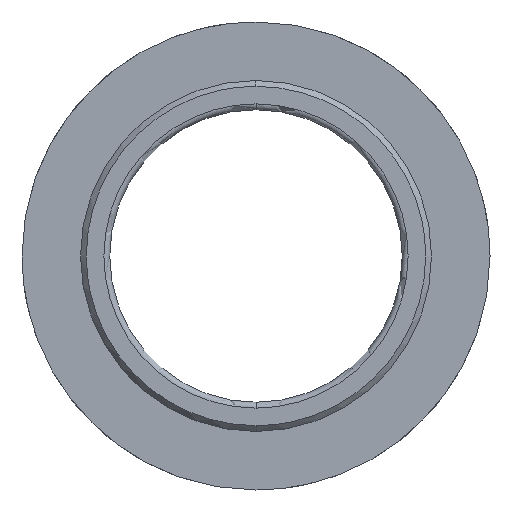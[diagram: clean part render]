
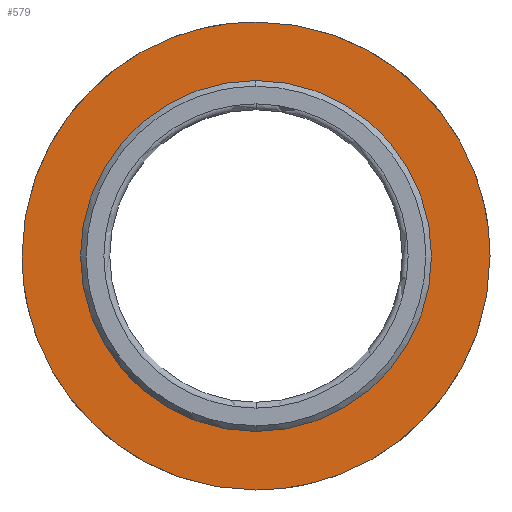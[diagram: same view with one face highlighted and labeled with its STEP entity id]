
A CAD part, left-side view. The second image highlights one B-rep face of the part: STEP entity #579.
In plain terms, the highlighted planar face has unit normal (-1, 0, 0).
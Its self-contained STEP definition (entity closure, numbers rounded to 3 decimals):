
#363=CARTESIAN_POINT('Vertex',(-8.,0.,30.)) ;
#366=CARTESIAN_POINT('Axis2P3D Location',(-8.,0.,0.)) ;
#370=CARTESIAN_POINT('Vertex',(-8.,30.,0.)) ;
#373=CARTESIAN_POINT('Axis2P3D Location',(-8.,0.,0.)) ;
#377=CARTESIAN_POINT('Vertex',(-8.,0.,-30.)) ;
#399=CARTESIAN_POINT('Axis2P3D Location',(-8.,0.,0.)) ;
#403=CARTESIAN_POINT('Vertex',(-8.,-30.,0.)) ;
#406=CARTESIAN_POINT('Axis2P3D Location',(-8.,0.,0.)) ;
#486=CARTESIAN_POINT('Axis2P3D Location',(-8.,40.,0.)) ;
#492=CARTESIAN_POINT('Control Point',(-8.,0.,-40.)) ;
#493=CARTESIAN_POINT('Control Point',(-8.,3.718,-40.)) ;
#494=CARTESIAN_POINT('Control Point',(-8.,7.436,-39.568)) ;
#495=CARTESIAN_POINT('Control Point',(-8.,11.087,-38.704)) ;
#496=CARTESIAN_POINT('Control Point',(-8.,18.122,-36.143)) ;
#497=CARTESIAN_POINT('Control Point',(-8.,24.382,-32.038)) ;
#498=CARTESIAN_POINT('Control Point',(-8.,27.259,-29.629)) ;
#499=CARTESIAN_POINT('Control Point',(-8.,32.399,-24.187)) ;
#500=CARTESIAN_POINT('Control Point',(-8.,36.155,-17.712)) ;
#501=CARTESIAN_POINT('Control Point',(-8.,37.647,-14.269)) ;
#502=CARTESIAN_POINT('Control Point',(-8.,39.135,-9.323)) ;
#503=CARTESIAN_POINT('Control Point',(-8.,39.813,-4.233)) ;
#504=CARTESIAN_POINT('Control Point',(-8.,39.938,-2.824)) ;
#505=CARTESIAN_POINT('Control Point',(-8.,40.,-1.412)) ;
#506=CARTESIAN_POINT('Control Point',(-8.,40.,0.)) ;
#507=CARTESIAN_POINT('Vertex',(-8.,0.,-40.)) ;
#509=CARTESIAN_POINT('Vertex',(-8.,40.,0.)) ;
#513=CARTESIAN_POINT('Control Point',(-8.,-40.,0.)) ;
#514=CARTESIAN_POINT('Control Point',(-8.,-40.,-3.718)) ;
#515=CARTESIAN_POINT('Control Point',(-8.,-39.568,-7.436)) ;
#516=CARTESIAN_POINT('Control Point',(-8.,-38.704,-11.087)) ;
#517=CARTESIAN_POINT('Control Point',(-8.,-36.143,-18.122)) ;
#518=CARTESIAN_POINT('Control Point',(-8.,-32.038,-24.382)) ;
#519=CARTESIAN_POINT('Control Point',(-8.,-29.629,-27.259)) ;
#520=CARTESIAN_POINT('Control Point',(-8.,-24.187,-32.399)) ;
#521=CARTESIAN_POINT('Control Point',(-8.,-17.712,-36.155)) ;
#522=CARTESIAN_POINT('Control Point',(-8.,-14.269,-37.647)) ;
#523=CARTESIAN_POINT('Control Point',(-8.,-9.323,-39.135)) ;
#524=CARTESIAN_POINT('Control Point',(-8.,-4.233,-39.813)) ;
#525=CARTESIAN_POINT('Control Point',(-8.,-2.824,-39.938)) ;
#526=CARTESIAN_POINT('Control Point',(-8.,-1.412,-40.)) ;
#527=CARTESIAN_POINT('Control Point',(-8.,0.,-40.)) ;
#528=CARTESIAN_POINT('Vertex',(-8.,-40.,0.)) ;
#532=CARTESIAN_POINT('Control Point',(-8.,0.,40.)) ;
#533=CARTESIAN_POINT('Control Point',(-8.,-3.718,40.)) ;
#534=CARTESIAN_POINT('Control Point',(-8.,-7.436,39.568)) ;
#535=CARTESIAN_POINT('Control Point',(-8.,-11.087,38.704)) ;
#536=CARTESIAN_POINT('Control Point',(-8.,-18.122,36.143)) ;
#537=CARTESIAN_POINT('Control Point',(-8.,-24.382,32.038)) ;
#538=CARTESIAN_POINT('Control Point',(-8.,-27.259,29.629)) ;
#539=CARTESIAN_POINT('Control Point',(-8.,-32.399,24.187)) ;
#540=CARTESIAN_POINT('Control Point',(-8.,-36.155,17.712)) ;
#541=CARTESIAN_POINT('Control Point',(-8.,-37.647,14.269)) ;
#542=CARTESIAN_POINT('Control Point',(-8.,-39.135,9.323)) ;
#543=CARTESIAN_POINT('Control Point',(-8.,-39.813,4.233)) ;
#544=CARTESIAN_POINT('Control Point',(-8.,-39.938,2.824)) ;
#545=CARTESIAN_POINT('Control Point',(-8.,-40.,1.412)) ;
#546=CARTESIAN_POINT('Control Point',(-8.,-40.,0.)) ;
#547=CARTESIAN_POINT('Vertex',(-8.,0.,40.)) ;
#551=CARTESIAN_POINT('Control Point',(-8.,40.,0.)) ;
#552=CARTESIAN_POINT('Control Point',(-8.,40.,3.718)) ;
#553=CARTESIAN_POINT('Control Point',(-8.,39.568,7.436)) ;
#554=CARTESIAN_POINT('Control Point',(-8.,38.704,11.087)) ;
#555=CARTESIAN_POINT('Control Point',(-8.,36.143,18.122)) ;
#556=CARTESIAN_POINT('Control Point',(-8.,32.038,24.382)) ;
#557=CARTESIAN_POINT('Control Point',(-8.,29.629,27.259)) ;
#558=CARTESIAN_POINT('Control Point',(-8.,24.187,32.399)) ;
#559=CARTESIAN_POINT('Control Point',(-8.,17.712,36.155)) ;
#560=CARTESIAN_POINT('Control Point',(-8.,14.269,37.647)) ;
#561=CARTESIAN_POINT('Control Point',(-8.,9.323,39.135)) ;
#562=CARTESIAN_POINT('Control Point',(-8.,4.233,39.813)) ;
#563=CARTESIAN_POINT('Control Point',(-8.,2.824,39.938)) ;
#564=CARTESIAN_POINT('Control Point',(-8.,1.412,40.)) ;
#565=CARTESIAN_POINT('Control Point',(-8.,0.,40.)) ;
#367=DIRECTION('Axis2P3D Direction',(-1.,-0.,0.)) ;
#374=DIRECTION('Axis2P3D Direction',(-1.,-0.,0.)) ;
#400=DIRECTION('Axis2P3D Direction',(-1.,-0.,-0.)) ;
#407=DIRECTION('Axis2P3D Direction',(-1.,-0.,-0.)) ;
#487=DIRECTION('Axis2P3D Direction',(-1.,0.,0.)) ;
#488=DIRECTION('Axis2P3D XDirection',(0.,0.,1.)) ;
#368=AXIS2_PLACEMENT_3D('Circle Axis2P3D',#366,#367,$) ;
#375=AXIS2_PLACEMENT_3D('Circle Axis2P3D',#373,#374,$) ;
#401=AXIS2_PLACEMENT_3D('Circle Axis2P3D',#399,#400,$) ;
#408=AXIS2_PLACEMENT_3D('Circle Axis2P3D',#406,#407,$) ;
#489=AXIS2_PLACEMENT_3D('Plane Axis2P3D',#486,#487,#488) ;
#568=ORIENTED_EDGE('',*,*,#511,.F.) ;
#569=ORIENTED_EDGE('',*,*,#530,.F.) ;
#570=ORIENTED_EDGE('',*,*,#549,.F.) ;
#571=ORIENTED_EDGE('',*,*,#566,.F.) ;
#574=ORIENTED_EDGE('',*,*,#372,.T.) ;
#575=ORIENTED_EDGE('',*,*,#410,.T.) ;
#576=ORIENTED_EDGE('',*,*,#405,.T.) ;
#577=ORIENTED_EDGE('',*,*,#379,.T.) ;
#578=FACE_BOUND('',#573,.T.) ;
#579=ADVANCED_FACE('G403-50X70',(#572,#578),#490,.T.) ;
#491=B_SPLINE_CURVE_WITH_KNOTS('',5,(#492,#493,#494,#495,#496,#497,#498,#499,#500,#501,#502,#503,#504,#505,#506),.UNSPECIFIED.,.F.,.U.,(6,3,3,3,6),(0.,26.337,52.675,79.013,89.016),.UNSPECIFIED.) ;
#512=B_SPLINE_CURVE_WITH_KNOTS('',5,(#513,#514,#515,#516,#517,#518,#519,#520,#521,#522,#523,#524,#525,#526,#527),.UNSPECIFIED.,.F.,.U.,(6,3,3,3,6),(0.,26.344,52.687,79.031,89.037),.UNSPECIFIED.) ;
#531=B_SPLINE_CURVE_WITH_KNOTS('',5,(#532,#533,#534,#535,#536,#537,#538,#539,#540,#541,#542,#543,#544,#545,#546),.UNSPECIFIED.,.F.,.U.,(6,3,3,3,6),(0.,26.337,52.675,79.013,89.016),.UNSPECIFIED.) ;
#550=B_SPLINE_CURVE_WITH_KNOTS('',5,(#551,#552,#553,#554,#555,#556,#557,#558,#559,#560,#561,#562,#563,#564,#565),.UNSPECIFIED.,.F.,.U.,(6,3,3,3,6),(0.,26.344,52.687,79.031,89.037),.UNSPECIFIED.) ;
#369=CIRCLE('generated circle',#368,30.) ;
#376=CIRCLE('generated circle',#375,30.) ;
#402=CIRCLE('generated circle',#401,30.) ;
#409=CIRCLE('generated circle',#408,30.) ;
#372=EDGE_CURVE('',#371,#364,#369,.F.) ;
#379=EDGE_CURVE('',#378,#371,#376,.F.) ;
#405=EDGE_CURVE('',#404,#378,#402,.F.) ;
#410=EDGE_CURVE('',#364,#404,#409,.F.) ;
#511=EDGE_CURVE('',#508,#510,#491,.T.) ;
#530=EDGE_CURVE('',#529,#508,#512,.T.) ;
#549=EDGE_CURVE('',#548,#529,#531,.T.) ;
#566=EDGE_CURVE('',#510,#548,#550,.T.) ;
#567=EDGE_LOOP('',(#568,#569,#570,#571)) ;
#573=EDGE_LOOP('',(#574,#575,#576,#577)) ;
#572=FACE_OUTER_BOUND('',#567,.T.) ;
#490=PLANE('Plane',#489) ;
#364=VERTEX_POINT('',#363) ;
#371=VERTEX_POINT('',#370) ;
#378=VERTEX_POINT('',#377) ;
#404=VERTEX_POINT('',#403) ;
#508=VERTEX_POINT('',#507) ;
#510=VERTEX_POINT('',#509) ;
#529=VERTEX_POINT('',#528) ;
#548=VERTEX_POINT('',#547) ;
